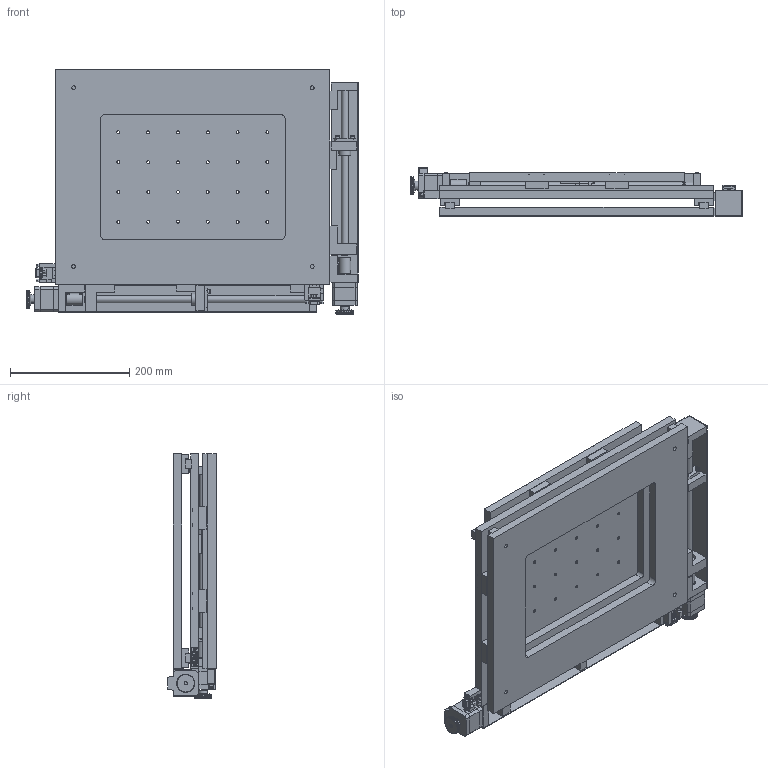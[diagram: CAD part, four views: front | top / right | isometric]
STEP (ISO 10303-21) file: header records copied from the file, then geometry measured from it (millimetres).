
FILE_DESCRIPTION (( 'STEP AP203' ), '1' );
FILE_NAME ('JT360XY-250.step', '2017-01-10T10:30:44', ( '¦K¬P' ), ( '' ), 'SwSTEP 2.0', 'SolidWorks 2012', '' );
FILE_SCHEMA (( 'CONFIG_CONTROL_DESIGN' ));
Products named in the file (1): JT360XY-250
Bounding box: 557 x 81 x 410 mm (x, y, z)
Surface area: 1030418.2 mm2 (no closed solid volume)
Topology: 0 solids, 163 shells, 1375 faces, 4729 edges, 3371 vertices
Faces by surface type: plane 782, cylinder 472, cone 99, torus 13, bspline 5, sphere 4
Full cylindrical faces by diameter (mm): 1 x7, 1.04 x12, 1.14 x6, 1.64 x18, 3 x10, 3.4 x6, 4 x8, 5 x30, 5.5 x6, 5.7 x4, 6 x67, 6.5 x12, 7 x7, 8 x12, 10 x4, 11 x1, 12 x2, 15.8 x2, 20 x6, 22 x4, 22.2 x2
Entity records: 50859 total; most frequent: CARTESIAN_POINT 12085, DIRECTION 7821, ORIENTED_EDGE 6670, EDGE_CURVE 4325, VERTEX_POINT 3294, AXIS2_PLACEMENT_3D 2736, VECTOR 2349, LINE 2349
